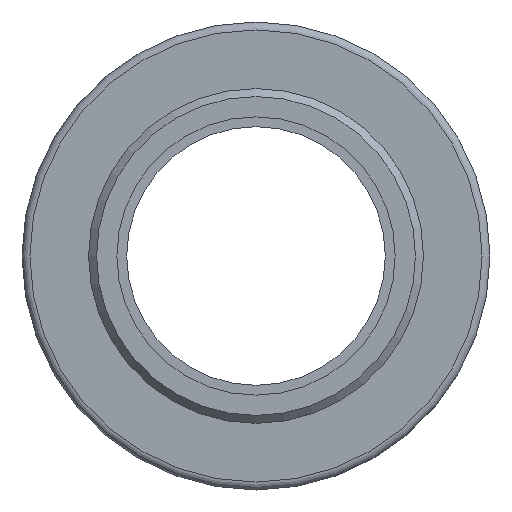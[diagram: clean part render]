
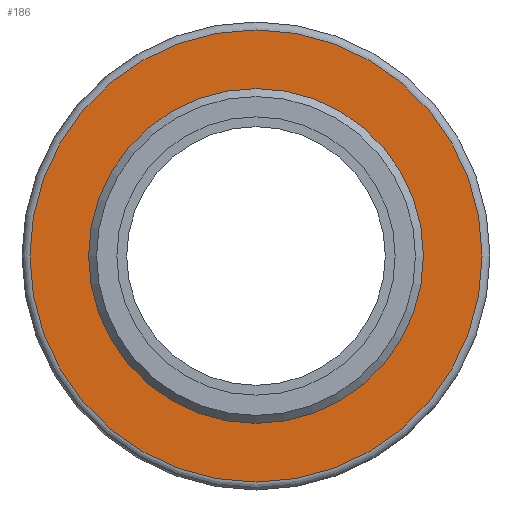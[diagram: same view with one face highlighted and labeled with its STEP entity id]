
A CAD part, front view. The second image highlights one B-rep face of the part: STEP entity #186.
In plain terms, the highlighted planar face has unit normal (0, -1, 0).
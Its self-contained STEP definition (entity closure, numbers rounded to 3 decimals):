
#34=PLANE('',#236);
#55=ORIENTED_EDGE('',*,*,#81,.T.);
#56=ORIENTED_EDGE('',*,*,#80,.F.);
#80=EDGE_CURVE('',#95,#95,#110,.T.);
#81=EDGE_CURVE('',#96,#96,#111,.T.);
#95=VERTEX_POINT('',#342);
#96=VERTEX_POINT('',#345);
#110=CIRCLE('',#235,21.1);
#111=CIRCLE('',#237,28.5);
#130=EDGE_LOOP('',(#55));
#131=EDGE_LOOP('',(#56));
#160=FACE_BOUND('',#130,.T.);
#161=FACE_BOUND('',#131,.T.);
#186=ADVANCED_FACE('',(#160,#161),#34,.T.);
#235=AXIS2_PLACEMENT_3D('',#341,#282,#283);
#236=AXIS2_PLACEMENT_3D('',#343,#284,#285);
#237=AXIS2_PLACEMENT_3D('',#344,#286,#287);
#282=DIRECTION('',(0.,-1.,0.));
#283=DIRECTION('',(0.,0.,-1.));
#284=DIRECTION('',(0.,-1.,0.));
#285=DIRECTION('',(0.,0.,-1.));
#286=DIRECTION('',(0.,-1.,0.));
#287=DIRECTION('',(0.,0.,-1.));
#341=CARTESIAN_POINT('',(0.,0.,0.));
#342=CARTESIAN_POINT('',(0.,0.,-21.1));
#343=CARTESIAN_POINT('',(0.,0.,21.1));
#344=CARTESIAN_POINT('',(0.,0.,0.));
#345=CARTESIAN_POINT('',(0.,0.,-28.5));
